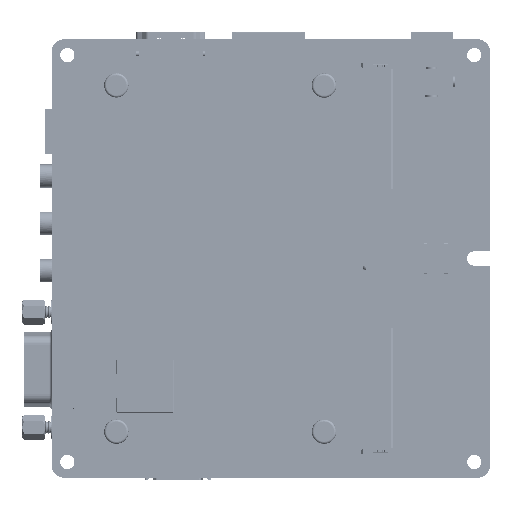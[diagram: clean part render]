
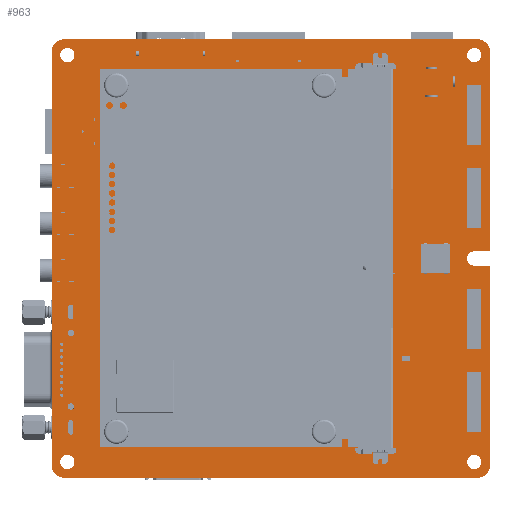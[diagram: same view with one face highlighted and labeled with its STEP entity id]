
A CAD part, front view. The second image highlights one B-rep face of the part: STEP entity #963.
In plain terms, the highlighted planar face has unit normal (0, -1, 0).
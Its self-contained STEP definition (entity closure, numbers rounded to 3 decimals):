
#267=CARTESIAN_POINT('',(44.08,-1.6,-44.08));
#268=DIRECTION('',(0.,1.,0.));
#269=DIRECTION('',(1.,0.,0.));
#270=AXIS2_PLACEMENT_3D('',#267,#268,#269);
#275=CARTESIAN_POINT('',(44.08,-1.6,-44.08));
#276=DIRECTION('',(0.,1.,0.));
#277=DIRECTION('',(-1.,0.,0.));
#278=AXIS2_PLACEMENT_3D('',#275,#276,#277);
#283=CARTESIAN_POINT('',(44.08,-1.6,44.08));
#284=DIRECTION('',(0.,1.,0.));
#285=DIRECTION('',(1.,0.,0.));
#286=AXIS2_PLACEMENT_3D('',#283,#284,#285);
#291=CARTESIAN_POINT('',(44.08,-1.6,44.08));
#292=DIRECTION('',(0.,1.,0.));
#293=DIRECTION('',(-1.,0.,0.));
#294=AXIS2_PLACEMENT_3D('',#291,#292,#293);
#299=CARTESIAN_POINT('',(-44.08,-1.6,-44.08));
#300=DIRECTION('',(0.,1.,0.));
#301=DIRECTION('',(1.,0.,0.));
#302=AXIS2_PLACEMENT_3D('',#299,#300,#301);
#307=CARTESIAN_POINT('',(-44.08,-1.6,-44.08));
#308=DIRECTION('',(0.,1.,0.));
#309=DIRECTION('',(-1.,0.,0.));
#310=AXIS2_PLACEMENT_3D('',#307,#308,#309);
#315=CARTESIAN_POINT('',(-44.08,-1.6,44.08));
#316=DIRECTION('',(0.,1.,0.));
#317=DIRECTION('',(1.,0.,0.));
#318=AXIS2_PLACEMENT_3D('',#315,#316,#317);
#323=CARTESIAN_POINT('',(-44.08,-1.6,44.08));
#324=DIRECTION('',(0.,1.,0.));
#325=DIRECTION('',(-1.,0.,0.));
#326=AXIS2_PLACEMENT_3D('',#323,#324,#325);
#331=CARTESIAN_POINT('',(44.8,-1.6,-44.8));
#332=DIRECTION('',(0.,-1.,0.));
#333=DIRECTION('',(0.,0.,-1.));
#334=AXIS2_PLACEMENT_3D('',#331,#332,#333);
#339=DIRECTION('',(-1.,0.,0.));
#340=VECTOR('',#339,89.6);
#341=CARTESIAN_POINT('',(44.8,-1.6,-47.5));
#342=LINE('',#341,#340);
#346=CARTESIAN_POINT('',(-44.8,-1.6,-44.8));
#347=DIRECTION('',(0.,-1.,0.));
#348=DIRECTION('',(-1.,0.,0.));
#349=AXIS2_PLACEMENT_3D('',#346,#347,#348);
#354=DIRECTION('',(0.,0.,1.));
#355=VECTOR('',#354,89.6);
#356=CARTESIAN_POINT('',(-47.5,-1.6,-44.8));
#357=LINE('',#356,#355);
#361=CARTESIAN_POINT('',(-44.8,-1.6,44.8));
#362=DIRECTION('',(0.,-1.,0.));
#363=DIRECTION('',(0.,0.,1.));
#364=AXIS2_PLACEMENT_3D('',#361,#362,#363);
#369=DIRECTION('',(1.,0.,0.));
#370=VECTOR('',#369,89.6);
#371=CARTESIAN_POINT('',(-44.8,-1.6,47.5));
#372=LINE('',#371,#370);
#376=CARTESIAN_POINT('',(44.8,-1.6,44.8));
#377=DIRECTION('',(0.,-1.,0.));
#378=DIRECTION('',(1.,0.,0.));
#379=AXIS2_PLACEMENT_3D('',#376,#377,#378);
#384=DIRECTION('',(0.,0.,-1.));
#385=VECTOR('',#384,43.25);
#386=CARTESIAN_POINT('',(47.5,-1.6,44.8));
#387=LINE('',#386,#385);
#391=DIRECTION('',(-1.,0.,0.));
#392=VECTOR('',#391,3.42);
#393=CARTESIAN_POINT('',(47.5,-1.6,1.55));
#394=LINE('',#393,#392);
#398=CARTESIAN_POINT('',(44.08,-1.6,0.));
#399=DIRECTION('',(0.,1.,0.));
#400=DIRECTION('',(0.,0.,-1.));
#401=AXIS2_PLACEMENT_3D('',#398,#399,#400);
#406=DIRECTION('',(-1.,0.,0.));
#407=VECTOR('',#406,3.42);
#408=CARTESIAN_POINT('',(47.5,-1.6,-1.55));
#409=LINE('',#408,#407);
#413=DIRECTION('',(0.,0.,-1.));
#414=VECTOR('',#413,43.25);
#415=CARTESIAN_POINT('',(47.5,-1.6,-1.55));
#416=LINE('',#415,#414);
#420=CARTESIAN_POINT('',(11.53,-1.6,37.52));
#421=DIRECTION('',(0.,-1.,0.));
#422=DIRECTION('',(0.,0.,-1.));
#423=AXIS2_PLACEMENT_3D('',#420,#421,#422);
#428=CARTESIAN_POINT('',(11.53,-1.6,37.52));
#429=DIRECTION('',(0.,-1.,0.));
#430=DIRECTION('',(0.,0.,1.));
#431=AXIS2_PLACEMENT_3D('',#428,#429,#430);
#436=CARTESIAN_POINT('',(-33.47,-1.6,37.52));
#437=DIRECTION('',(0.,-1.,0.));
#438=DIRECTION('',(0.,0.,-1.));
#439=AXIS2_PLACEMENT_3D('',#436,#437,#438);
#444=CARTESIAN_POINT('',(-33.47,-1.6,37.52));
#445=DIRECTION('',(0.,-1.,0.));
#446=DIRECTION('',(0.,0.,1.));
#447=AXIS2_PLACEMENT_3D('',#444,#445,#446);
#452=CARTESIAN_POINT('',(11.53,-1.6,-37.52));
#453=DIRECTION('',(0.,-1.,0.));
#454=DIRECTION('',(0.,0.,-1.));
#455=AXIS2_PLACEMENT_3D('',#452,#453,#454);
#460=CARTESIAN_POINT('',(11.53,-1.6,-37.52));
#461=DIRECTION('',(0.,-1.,0.));
#462=DIRECTION('',(0.,0.,1.));
#463=AXIS2_PLACEMENT_3D('',#460,#461,#462);
#468=CARTESIAN_POINT('',(-33.47,-1.6,-37.52));
#469=DIRECTION('',(0.,-1.,0.));
#470=DIRECTION('',(0.,0.,-1.));
#471=AXIS2_PLACEMENT_3D('',#468,#469,#470);
#476=CARTESIAN_POINT('',(-33.47,-1.6,-37.52));
#477=DIRECTION('',(0.,-1.,0.));
#478=DIRECTION('',(0.,0.,1.));
#479=AXIS2_PLACEMENT_3D('',#476,#477,#478);
#670=CARTESIAN_POINT('',(45.63,-1.6,-44.08));
#671=VERTEX_POINT('',#670);
#672=CARTESIAN_POINT('',(42.53,-1.6,-44.08));
#673=VERTEX_POINT('',#672);
#686=CARTESIAN_POINT('',(45.63,-1.6,44.08));
#687=CARTESIAN_POINT('',(42.53,-1.6,44.08));
#688=VERTEX_POINT('',#686);
#689=VERTEX_POINT('',#687);
#690=CARTESIAN_POINT('',(-42.53,-1.6,-44.08));
#691=CARTESIAN_POINT('',(-45.63,-1.6,-44.08));
#692=VERTEX_POINT('',#690);
#693=VERTEX_POINT('',#691);
#694=CARTESIAN_POINT('',(-42.53,-1.6,44.08));
#695=CARTESIAN_POINT('',(-45.63,-1.6,44.08));
#696=VERTEX_POINT('',#694);
#697=VERTEX_POINT('',#695);
#698=CARTESIAN_POINT('',(44.8,-1.6,-47.5));
#699=CARTESIAN_POINT('',(47.5,-1.6,-44.8));
#700=VERTEX_POINT('',#698);
#701=VERTEX_POINT('',#699);
#708=CARTESIAN_POINT('',(-44.8,-1.6,-47.5));
#709=VERTEX_POINT('',#708);
#710=CARTESIAN_POINT('',(47.5,-1.6,44.8));
#711=CARTESIAN_POINT('',(44.8,-1.6,47.5));
#712=VERTEX_POINT('',#710);
#713=VERTEX_POINT('',#711);
#718=CARTESIAN_POINT('',(-44.8,-1.6,47.5));
#719=CARTESIAN_POINT('',(-47.5,-1.6,44.8));
#720=VERTEX_POINT('',#718);
#721=VERTEX_POINT('',#719);
#726=CARTESIAN_POINT('',(-47.5,-1.6,-44.8));
#727=VERTEX_POINT('',#726);
#738=CARTESIAN_POINT('',(44.08,-1.6,-1.55));
#739=CARTESIAN_POINT('',(44.08,-1.6,1.55));
#740=VERTEX_POINT('',#738);
#741=VERTEX_POINT('',#739);
#742=CARTESIAN_POINT('',(47.5,-1.6,1.55));
#743=VERTEX_POINT('',#742);
#744=CARTESIAN_POINT('',(47.5,-1.6,-1.55));
#745=VERTEX_POINT('',#744);
#762=CARTESIAN_POINT('',(11.53,-1.6,36.97));
#763=CARTESIAN_POINT('',(11.53,-1.6,38.07));
#764=VERTEX_POINT('',#762);
#765=VERTEX_POINT('',#763);
#766=CARTESIAN_POINT('',(-33.47,-1.6,36.97));
#767=CARTESIAN_POINT('',(-33.47,-1.6,38.07));
#768=VERTEX_POINT('',#766);
#769=VERTEX_POINT('',#767);
#770=CARTESIAN_POINT('',(11.53,-1.6,-38.07));
#771=CARTESIAN_POINT('',(11.53,-1.6,-36.97));
#772=VERTEX_POINT('',#770);
#773=VERTEX_POINT('',#771);
#774=CARTESIAN_POINT('',(-33.47,-1.6,-38.07));
#775=CARTESIAN_POINT('',(-33.47,-1.6,-36.97));
#776=VERTEX_POINT('',#774);
#777=VERTEX_POINT('',#775);
#886=CARTESIAN_POINT('',(0.,-1.6,0.));
#887=DIRECTION('',(0.,1.,0.));
#888=DIRECTION('',(1.,0.,0.));
#889=AXIS2_PLACEMENT_3D('',#886,#887,#888);
#890=PLANE('',#889);
#892=ORIENTED_EDGE('',*,*,#891,.F.);
#894=ORIENTED_EDGE('',*,*,#893,.T.);
#896=ORIENTED_EDGE('',*,*,#895,.F.);
#898=ORIENTED_EDGE('',*,*,#897,.T.);
#900=ORIENTED_EDGE('',*,*,#899,.F.);
#902=ORIENTED_EDGE('',*,*,#901,.T.);
#904=ORIENTED_EDGE('',*,*,#903,.F.);
#906=ORIENTED_EDGE('',*,*,#905,.T.);
#908=ORIENTED_EDGE('',*,*,#907,.T.);
#910=ORIENTED_EDGE('',*,*,#909,.F.);
#912=ORIENTED_EDGE('',*,*,#911,.F.);
#914=ORIENTED_EDGE('',*,*,#913,.T.);
#915=EDGE_LOOP('',(#892,#894,#896,#898,#900,#902,#904,#906,#908,#910,#912,
#914));
#916=FACE_OUTER_BOUND('',#915,.F.);
#918=ORIENTED_EDGE('',*,*,#917,.F.);
#920=ORIENTED_EDGE('',*,*,#919,.F.);
#921=EDGE_LOOP('',(#918,#920));
#922=FACE_BOUND('',#921,.F.);
#924=ORIENTED_EDGE('',*,*,#923,.F.);
#926=ORIENTED_EDGE('',*,*,#925,.F.);
#927=EDGE_LOOP('',(#924,#926));
#928=FACE_BOUND('',#927,.F.);
#930=ORIENTED_EDGE('',*,*,#929,.F.);
#932=ORIENTED_EDGE('',*,*,#931,.F.);
#933=EDGE_LOOP('',(#930,#932));
#934=FACE_BOUND('',#933,.F.);
#935=ORIENTED_EDGE('',*,*,#866,.F.);
#936=ORIENTED_EDGE('',*,*,#880,.F.);
#937=EDGE_LOOP('',(#935,#936));
#938=FACE_BOUND('',#937,.F.);
#940=ORIENTED_EDGE('',*,*,#939,.T.);
#942=ORIENTED_EDGE('',*,*,#941,.T.);
#943=EDGE_LOOP('',(#940,#942));
#944=FACE_BOUND('',#943,.F.);
#946=ORIENTED_EDGE('',*,*,#945,.T.);
#948=ORIENTED_EDGE('',*,*,#947,.T.);
#949=EDGE_LOOP('',(#946,#948));
#950=FACE_BOUND('',#949,.F.);
#952=ORIENTED_EDGE('',*,*,#951,.T.);
#954=ORIENTED_EDGE('',*,*,#953,.T.);
#955=EDGE_LOOP('',(#952,#954));
#956=FACE_BOUND('',#955,.F.);
#958=ORIENTED_EDGE('',*,*,#957,.T.);
#960=ORIENTED_EDGE('',*,*,#959,.T.);
#961=EDGE_LOOP('',(#958,#960));
#962=FACE_BOUND('',#961,.F.);
#271=CIRCLE('',#270,1.55);
#279=CIRCLE('',#278,1.55);
#287=CIRCLE('',#286,1.55);
#295=CIRCLE('',#294,1.55);
#303=CIRCLE('',#302,1.55);
#311=CIRCLE('',#310,1.55);
#319=CIRCLE('',#318,1.55);
#327=CIRCLE('',#326,1.55);
#335=CIRCLE('',#334,2.7);
#350=CIRCLE('',#349,2.7);
#365=CIRCLE('',#364,2.7);
#380=CIRCLE('',#379,2.7);
#402=CIRCLE('',#401,1.55);
#424=CIRCLE('',#423,0.55);
#432=CIRCLE('',#431,0.55);
#440=CIRCLE('',#439,0.55);
#448=CIRCLE('',#447,0.55);
#456=CIRCLE('',#455,0.55);
#464=CIRCLE('',#463,0.55);
#472=CIRCLE('',#471,0.55);
#480=CIRCLE('',#479,0.55);
#866=EDGE_CURVE('',#671,#673,#271,.T.);
#880=EDGE_CURVE('',#673,#671,#279,.T.);
#891=EDGE_CURVE('',#700,#701,#335,.T.);
#893=EDGE_CURVE('',#700,#709,#342,.T.);
#895=EDGE_CURVE('',#727,#709,#350,.T.);
#897=EDGE_CURVE('',#727,#721,#357,.T.);
#899=EDGE_CURVE('',#720,#721,#365,.T.);
#901=EDGE_CURVE('',#720,#713,#372,.T.);
#903=EDGE_CURVE('',#712,#713,#380,.T.);
#905=EDGE_CURVE('',#712,#743,#387,.T.);
#907=EDGE_CURVE('',#743,#741,#394,.T.);
#909=EDGE_CURVE('',#740,#741,#402,.T.);
#911=EDGE_CURVE('',#745,#740,#409,.T.);
#913=EDGE_CURVE('',#745,#701,#416,.T.);
#917=EDGE_CURVE('',#688,#689,#287,.T.);
#919=EDGE_CURVE('',#689,#688,#295,.T.);
#923=EDGE_CURVE('',#692,#693,#303,.T.);
#925=EDGE_CURVE('',#693,#692,#311,.T.);
#929=EDGE_CURVE('',#696,#697,#319,.T.);
#931=EDGE_CURVE('',#697,#696,#327,.T.);
#939=EDGE_CURVE('',#764,#765,#424,.T.);
#941=EDGE_CURVE('',#765,#764,#432,.T.);
#945=EDGE_CURVE('',#768,#769,#440,.T.);
#947=EDGE_CURVE('',#769,#768,#448,.T.);
#951=EDGE_CURVE('',#772,#773,#456,.T.);
#953=EDGE_CURVE('',#773,#772,#464,.T.);
#957=EDGE_CURVE('',#776,#777,#472,.T.);
#959=EDGE_CURVE('',#777,#776,#480,.T.);
#963=ADVANCED_FACE('',(#916,#922,#928,#934,#938,#944,#950,#956,#962),#890,.F.);
